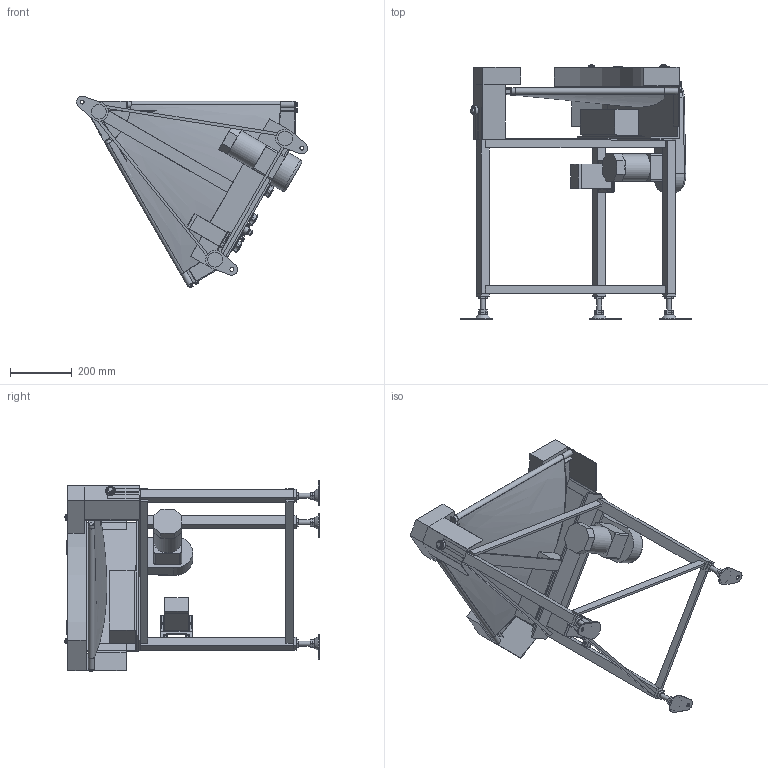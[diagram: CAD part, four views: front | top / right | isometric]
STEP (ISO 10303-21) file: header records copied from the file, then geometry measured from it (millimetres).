
FILE_DESCRIPTION (( 'STEP AP214' ), '1' );
FILE_NAME ('GBC60-UD400-R.STEP', '2022-12-05T23:41:38', ( '' ), ( '' ), 'SwSTEP 2.0', 'SolidWorks 2017', '' );
FILE_SCHEMA (( 'AUTOMOTIVE_DESIGN' ));
Length unit declared in the file: millimetre
Products named in the file (1): GBC60-UD400-R
Bounding box: 752.34 x 827.92 x 622.8 mm (x, y, z)
Volume: 15611097.9 mm3; surface area: 3004820.2 mm2
Topology: 56 solids, 56 shells, 920 faces, 2093 edges, 1344 vertices
Faces by surface type: plane 584, cylinder 185, cone 73, bspline 63, torus 8, sphere 7
Full cylindrical faces by diameter (mm): 4.2 x4, 4.5 x2, 5 x4, 6 x13, 6.4 x4, 7 x3, 8 x1, 9 x2, 10 x6, 12 x1, 12.2 x2, 12.5 x7, 13 x7, 15 x4, 16 x10, 18 x2, 18.4 x1, 20 x6, 21 x1, 22.2 x1, 25 x1, 30 x1, 89 x1
Entity records: 33715 total; most frequent: CARTESIAN_POINT 13458, ORIENTED_EDGE 3884, DIRECTION 3828, EDGE_CURVE 1942, VERTEX_POINT 1314, AXIS2_PLACEMENT_3D 1314, LINE 1200, VECTOR 1200
